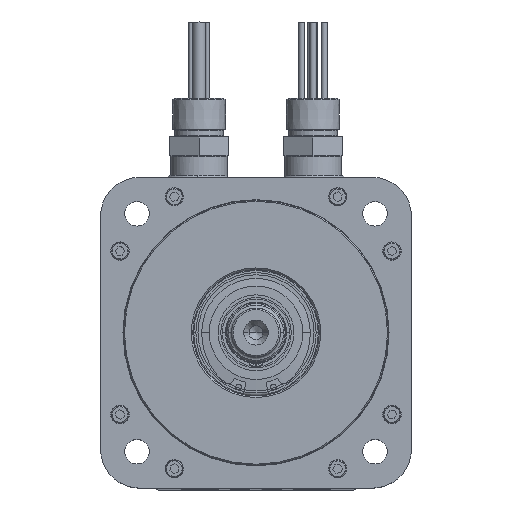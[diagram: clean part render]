
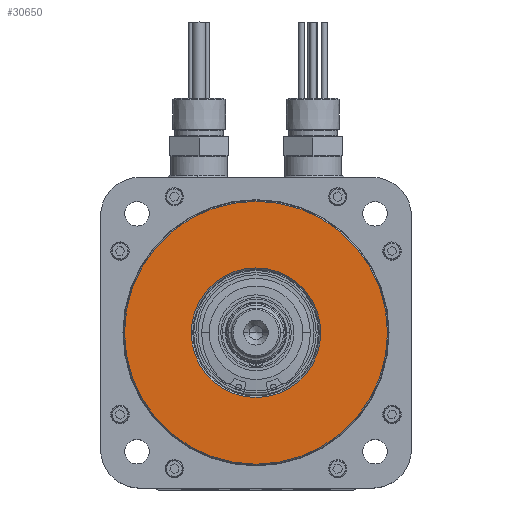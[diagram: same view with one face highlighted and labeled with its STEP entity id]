
A CAD part, top view. The second image highlights one B-rep face of the part: STEP entity #30650.
In plain terms, the highlighted planar face has unit normal (0, 0, 1).
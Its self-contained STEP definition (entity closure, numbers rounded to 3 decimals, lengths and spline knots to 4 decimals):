
#1801 = CIRCLE ( 'NONE', #24184, 2.5391 ) ;
#2351 = CIRCLE ( 'NONE', #24102, 1.2508 ) ;
#3315 = DIRECTION ( 'NONE',  ( 0., 0., 1. ) ) ;
#3550 = CARTESIAN_POINT ( 'NONE',  ( 0., 0., 16.127 ) ) ;
#3551 = DIRECTION ( 'NONE',  ( 1., 0., 0. ) ) ;
#4792 = DIRECTION ( 'NONE',  ( 0., 0., 1. ) ) ;
#4796 = CARTESIAN_POINT ( 'NONE',  ( 0., 0., 16.127 ) ) ;
#4797 = DIRECTION ( 'NONE',  ( 1., 0., 0. ) ) ;
#5916 = VERTEX_POINT ( 'NONE', #57972 ) ;
#5980 = VERTEX_POINT ( 'NONE', #58000 ) ;
#7310 = DIRECTION ( 'NONE',  ( 1., 0., 0. ) ) ;
#7321 = CARTESIAN_POINT ( 'NONE',  ( 0., 1.2208, 16.127 ) ) ;
#7327 = DIRECTION ( 'NONE',  ( 0., 0., 1. ) ) ;
#7345 = PLANE ( 'NONE',  #22723 ) ;
#10278 = EDGE_CURVE ( 'NONE', #25382, #5916, #36612, .T. ) ;
#10548 = EDGE_CURVE ( 'NONE', #5916, #25382, #1801, .T. ) ;
#10699 = EDGE_CURVE ( 'NONE', #5980, #25408, #2351, .T. ) ;
#15263 = EDGE_LOOP ( 'NONE', ( #48214, #48215 ) ) ;
#15292 = EDGE_LOOP ( 'NONE', ( #57202, #57333 ) ) ;
#20047 = CIRCLE ( 'NONE', #53473, 1.2508 ) ;
#22723 = AXIS2_PLACEMENT_3D ( 'NONE', #7321, #7327, #7310 ) ;
#24005 = AXIS2_PLACEMENT_3D ( 'NONE', #4796, #4792, #4797 ) ;
#24102 = AXIS2_PLACEMENT_3D ( 'NONE', #41040, #41042, #41044 ) ;
#24184 = AXIS2_PLACEMENT_3D ( 'NONE', #3550, #3315, #3551 ) ;
#24618 = CARTESIAN_POINT ( 'NONE',  ( 0., 0., 16.127 ) ) ;
#24619 = DIRECTION ( 'NONE',  ( 0., 0., -1. ) ) ;
#24620 = DIRECTION ( 'NONE',  ( 1., 0., 0. ) ) ;
#25382 = VERTEX_POINT ( 'NONE', #50036 ) ;
#25408 = VERTEX_POINT ( 'NONE', #49995 ) ;
#30650 = ADVANCED_FACE ( 'NONE', ( #31369, #31141 ), #7345, .T. ) ;
#31141 = FACE_BOUND ( 'NONE', #15263, .T. ) ;
#31369 = FACE_OUTER_BOUND ( 'NONE', #15292, .T. ) ;
#36612 = CIRCLE ( 'NONE', #24005, 2.5391 ) ;
#41040 = CARTESIAN_POINT ( 'NONE',  ( 0., 0., 16.127 ) ) ;
#41042 = DIRECTION ( 'NONE',  ( 0., 0., -1. ) ) ;
#41044 = DIRECTION ( 'NONE',  ( 1., 0., 0. ) ) ;
#48214 = ORIENTED_EDGE ( 'NONE', *, *, #60207, .T. ) ;
#48215 = ORIENTED_EDGE ( 'NONE', *, *, #10699, .T. ) ;
#49995 = CARTESIAN_POINT ( 'NONE',  ( 1.2507, 0., 16.127 ) ) ;
#50036 = CARTESIAN_POINT ( 'NONE',  ( 2.5391, 0., 16.127 ) ) ;
#53473 = AXIS2_PLACEMENT_3D ( 'NONE', #24618, #24619, #24620 ) ;
#57202 = ORIENTED_EDGE ( 'NONE', *, *, #10548, .T. ) ;
#57333 = ORIENTED_EDGE ( 'NONE', *, *, #10278, .T. ) ;
#57972 = CARTESIAN_POINT ( 'NONE',  ( -2.5391, 0., 16.127 ) ) ;
#58000 = CARTESIAN_POINT ( 'NONE',  ( -1.2507, 0., 16.127 ) ) ;
#60207 = EDGE_CURVE ( 'NONE', #25408, #5980, #20047, .T. ) ;
